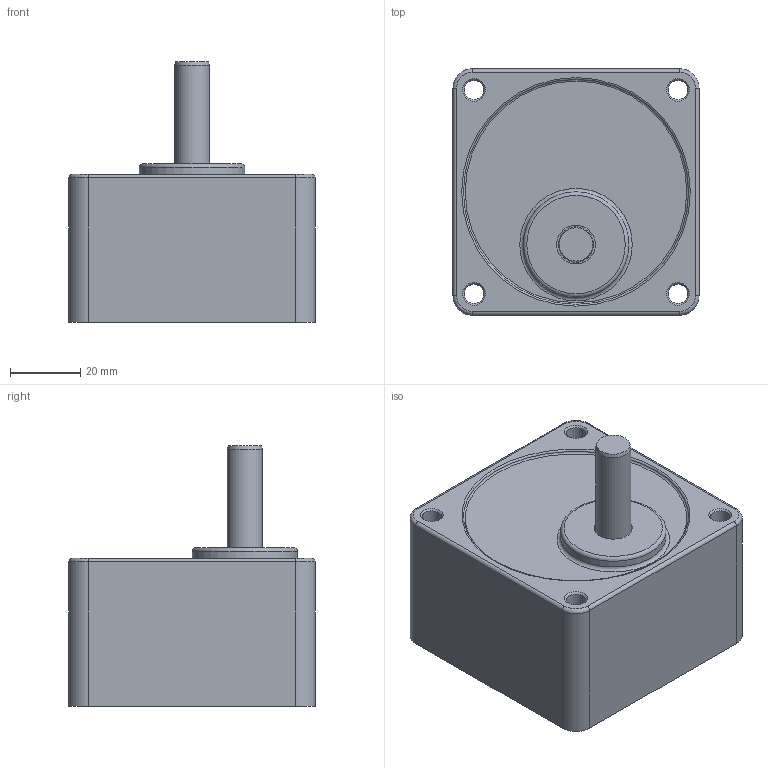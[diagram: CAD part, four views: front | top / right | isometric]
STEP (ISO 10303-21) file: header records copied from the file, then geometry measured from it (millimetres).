
FILE_DESCRIPTION((''),'2;1');
FILE_NAME('\\Spgrnd02\고객배포용도면\3D\01 Standard AC Motor\01 INDUCTION MOTOR\S7I15+S7KA\S7SA20~200.stp','2015-03-24T16:27:05',('smkim'),(''),'Autodesk Inventor 2012','Autodesk Inventor 2012','');
FILE_SCHEMA(('AUTOMOTIVE_DESIGN { 1 0 10303 214 1 1 1 1 }'));
Length unit declared in the file: millimetre
Products named in the file (1): S7SA20~200
Bounding box: 70 x 70 x 74 mm (x, y, z)
Volume: 185845.9 mm3; surface area: 26579.8 mm2
Topology: 1 solids, 1 shells, 42 faces, 86 edges, 52 vertices
Faces by surface type: cylinder 17, plane 12, torus 8, cone 5
Full cylindrical faces by diameter (mm): 5.5 x4, 7 x1, 10 x1, 11 x1, 30 x1, 64 x1
Entity records: 1069 total; most frequent: DIRECTION 202, CARTESIAN_POINT 163, ORIENTED_EDGE 136, AXIS2_PLACEMENT_3D 91, EDGE_LOOP 74, EDGE_CURVE 68, VERTEX_POINT 52, CIRCLE 48
